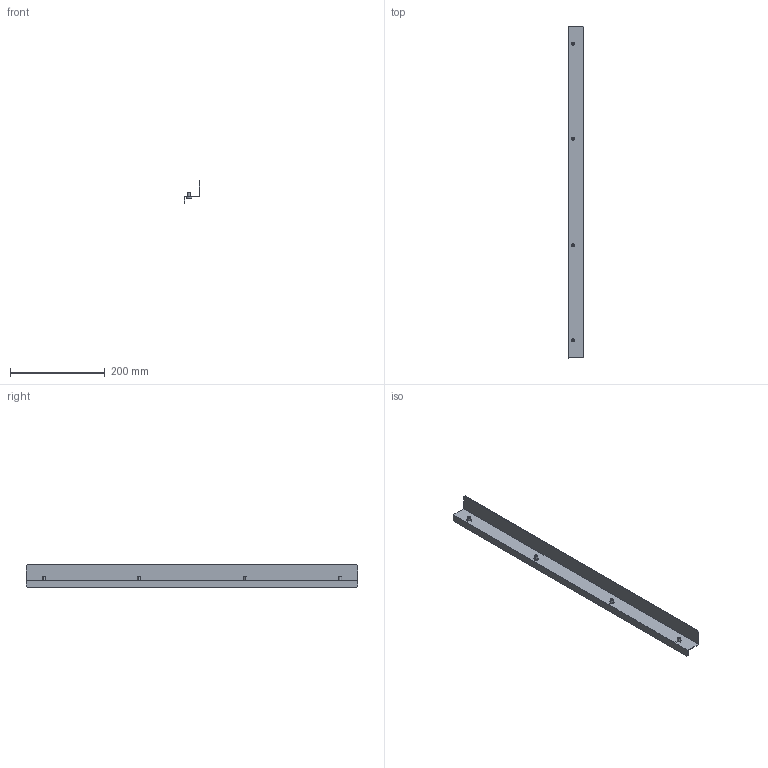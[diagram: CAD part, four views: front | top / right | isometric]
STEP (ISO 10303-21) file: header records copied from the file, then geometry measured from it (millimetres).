
FILE_DESCRIPTION (( 'STEP AP214' ), '1' );
FILE_NAME ('FO-00-BPS2-080 Ïëàíêà ñåêöèîíèðîâàíèÿ êîìïåíñàöèîííàÿ òèïà 2 â øêàô øèðèíîé 800 ìì.STEP', '2025-08-13T07:04:56', ( '' ), ( '' ), 'SwSTEP 2.0', 'SolidWorks 2023', '' );
FILE_SCHEMA (( 'AUTOMOTIVE_DESIGN' ));
Length unit declared in the file: millimetre
Products named in the file (1): FO-00-BPS2-080 Планка секционирования компенсационная типа 2 в шкаф шириной 800 мм
Bounding box: 33.5 x 700 x 49.5 mm (x, y, z)
Volume: 87872.8 mm3; surface area: 117845.7 mm2
Topology: 1 solids, 1 shells, 138 faces, 358 edges, 230 vertices
Faces by surface type: cylinder 84, plane 30, torus 8, cone 8, sphere 8
Entity records: 4387 total; most frequent: CARTESIAN_POINT 995, ORIENTED_EDGE 716, DIRECTION 706, EDGE_CURVE 358, AXIS2_PLACEMENT_3D 277, VERTEX_POINT 230, VECTOR 152, LINE 152
